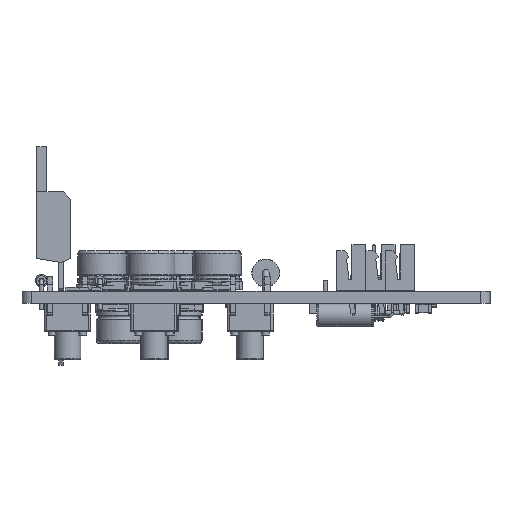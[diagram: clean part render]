
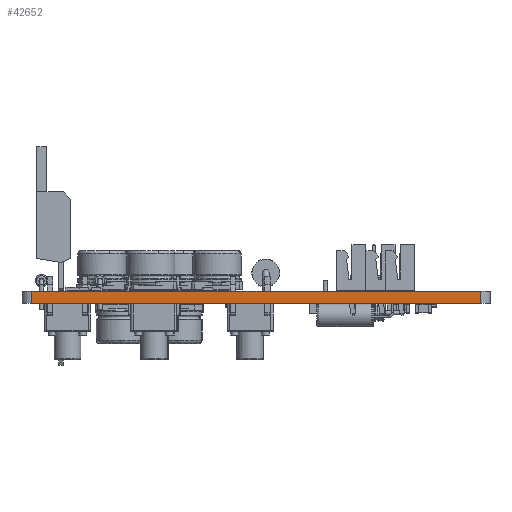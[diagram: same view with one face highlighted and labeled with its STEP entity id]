
A CAD part, front view. The second image highlights one B-rep face of the part: STEP entity #42652.
In plain terms, the highlighted planar face has unit normal (0, -1, 0).
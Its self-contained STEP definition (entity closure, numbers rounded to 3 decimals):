
#40233 = VERTEX_POINT('',#40234);
#40234 = CARTESIAN_POINT('',(70.53,-135.66,0.));
#40241 = EDGE_CURVE('',#40242,#40233,#40244,.T.);
#40242 = VERTEX_POINT('',#40243);
#40243 = CARTESIAN_POINT('',(128.95,-135.66,0.));
#40244 = LINE('',#40245,#40246);
#40245 = CARTESIAN_POINT('',(128.95,-135.66,0.));
#40246 = VECTOR('',#40247,1.);
#40247 = DIRECTION('',(-1.,0.,0.));
#41429 = VERTEX_POINT('',#41430);
#41430 = CARTESIAN_POINT('',(70.53,-135.66,1.6));
#41437 = EDGE_CURVE('',#41438,#41429,#41440,.T.);
#41438 = VERTEX_POINT('',#41439);
#41439 = CARTESIAN_POINT('',(128.95,-135.66,1.6));
#41440 = LINE('',#41441,#41442);
#41441 = CARTESIAN_POINT('',(128.95,-135.66,1.6));
#41442 = VECTOR('',#41443,1.);
#41443 = DIRECTION('',(-1.,0.,0.));
#42624 = EDGE_CURVE('',#40242,#41438,#42625,.T.);
#42625 = LINE('',#42626,#42627);
#42626 = CARTESIAN_POINT('',(128.95,-135.66,0.));
#42627 = VECTOR('',#42628,1.);
#42628 = DIRECTION('',(0.,0.,1.));
#42652 = ADVANCED_FACE('',(#42653),#42664,.T.);
#42653 = FACE_BOUND('',#42654,.T.);
#42654 = EDGE_LOOP('',(#42655,#42656,#42657,#42663));
#42655 = ORIENTED_EDGE('',*,*,#42624,.T.);
#42656 = ORIENTED_EDGE('',*,*,#41437,.T.);
#42657 = ORIENTED_EDGE('',*,*,#42658,.F.);
#42658 = EDGE_CURVE('',#40233,#41429,#42659,.T.);
#42659 = LINE('',#42660,#42661);
#42660 = CARTESIAN_POINT('',(70.53,-135.66,0.));
#42661 = VECTOR('',#42662,1.);
#42662 = DIRECTION('',(0.,0.,1.));
#42663 = ORIENTED_EDGE('',*,*,#40241,.F.);
#42664 = PLANE('',#42665);
#42665 = AXIS2_PLACEMENT_3D('',#42666,#42667,#42668);
#42666 = CARTESIAN_POINT('',(128.95,-135.66,0.));
#42667 = DIRECTION('',(0.,-1.,0.));
#42668 = DIRECTION('',(-1.,0.,0.));
